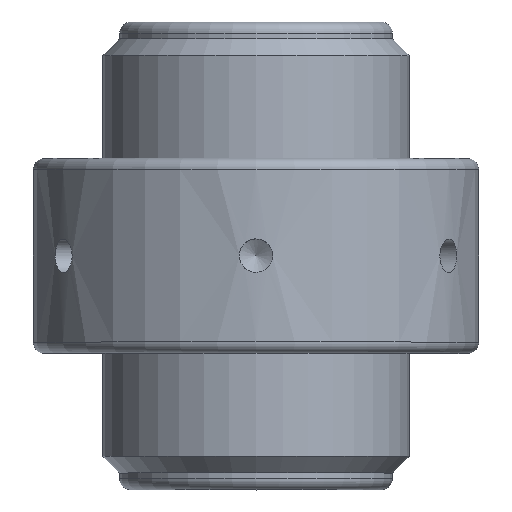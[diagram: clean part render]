
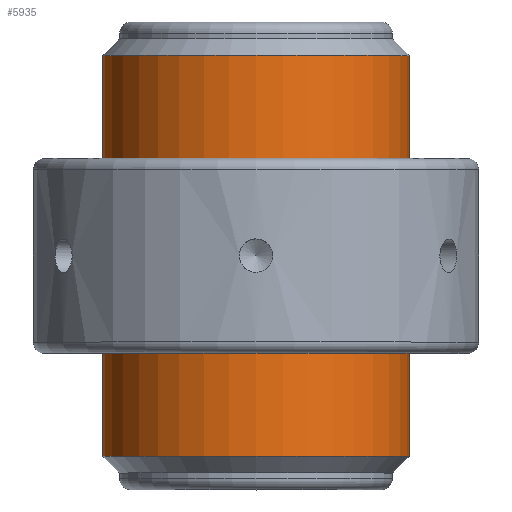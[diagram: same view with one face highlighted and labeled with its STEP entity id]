
A CAD part, top view. The second image highlights one B-rep face of the part: STEP entity #5935.
In plain terms, the highlighted cylindrical face has radius 27.5 mm (diameter 55 mm), a full revolution.
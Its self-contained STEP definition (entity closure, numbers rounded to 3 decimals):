
#37=CYLINDRICAL_SURFACE('',#6238,27.5);
#56=CIRCLE('',#6237,27.5);
#57=CIRCLE('',#6239,27.5);
#88=FACE_BOUND('',#1217,.T.);
#860=FACE_OUTER_BOUND('',#1216,.T.);
#1216=EDGE_LOOP('',(#4741));
#1217=EDGE_LOOP('',(#4742));
#2674=VERTEX_POINT('',#9278);
#2675=VERTEX_POINT('',#9281);
#3419=EDGE_CURVE('',#2674,#2674,#56,.T.);
#3420=EDGE_CURVE('',#2675,#2675,#57,.T.);
#4741=ORIENTED_EDGE('',*,*,#3419,.T.);
#4742=ORIENTED_EDGE('',*,*,#3420,.F.);
#5935=ADVANCED_FACE('',(#860,#88),#37,.T.);
#6237=AXIS2_PLACEMENT_3D('',#9279,#6730,#6731);
#6238=AXIS2_PLACEMENT_3D('',#9280,#6732,#6733);
#6239=AXIS2_PLACEMENT_3D('',#9282,#6734,#6735);
#6730=DIRECTION('center_axis',(0.,-1.,0.));
#6731=DIRECTION('ref_axis',(1.,0.,0.));
#6732=DIRECTION('center_axis',(0.,-1.,0.));
#6733=DIRECTION('ref_axis',(1.,0.,0.));
#6734=DIRECTION('center_axis',(0.,-1.,0.));
#6735=DIRECTION('ref_axis',(1.,0.,0.));
#9278=CARTESIAN_POINT('',(27.5,36.,0.));
#9279=CARTESIAN_POINT('Origin',(0.,36.,0.));
#9280=CARTESIAN_POINT('Origin',(0.,0.,0.));
#9281=CARTESIAN_POINT('',(27.5,-36.,0.));
#9282=CARTESIAN_POINT('Origin',(0.,-36.,0.));
